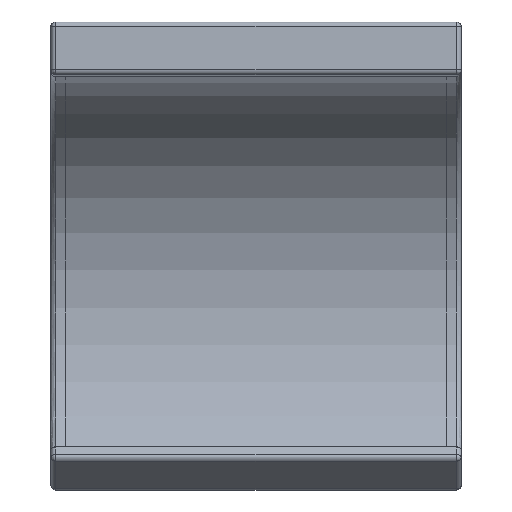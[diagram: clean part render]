
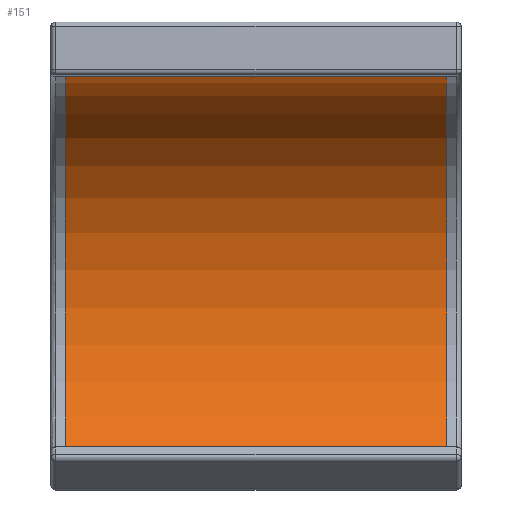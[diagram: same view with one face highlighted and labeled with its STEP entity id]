
A CAD part, top view. The second image highlights one B-rep face of the part: STEP entity #151.
In plain terms, the highlighted cylindrical face has radius 470 mm (diameter 940 mm), a partial arc.
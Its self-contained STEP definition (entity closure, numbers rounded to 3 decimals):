
#151=ADVANCED_FACE('',(#272),#1698,.F.);
#272=FACE_OUTER_BOUND('',#393,.T.);
#393=EDGE_LOOP('',(#766,#767,#768,#769));
#766=ORIENTED_EDGE('',*,*,#1094,.T.);
#767=ORIENTED_EDGE('',*,*,#1095,.T.);
#768=ORIENTED_EDGE('',*,*,#1096,.F.);
#769=ORIENTED_EDGE('',*,*,#1091,.F.);
#1091=EDGE_CURVE('',#1621,#1622,#1476,.T.);
#1094=EDGE_CURVE('',#1621,#1624,#1239,.T.);
#1095=EDGE_CURVE('',#1624,#1625,#1182,.T.);
#1096=EDGE_CURVE('',#1622,#1625,#1240,.T.);
#1182=(
BOUNDED_CURVE()
B_SPLINE_CURVE(1,(#3489,#3490),.UNSPECIFIED.,.F.,.F.)
B_SPLINE_CURVE_WITH_KNOTS((2,2),(0.,790.),.UNSPECIFIED.)
CURVE()
GEOMETRIC_REPRESENTATION_ITEM()
RATIONAL_B_SPLINE_CURVE((1.,1.))
REPRESENTATION_ITEM('')
);
#1239=TRIMMED_CURVE($,#1336,(#3487),(#3488),.T.,.CARTESIAN.);
#1240=TRIMMED_CURVE($,#1337,(#3492),(#3493),.T.,.CARTESIAN.);
#1336=CIRCLE('',#1931,470.);
#1337=CIRCLE('',#1932,470.);
#1476=B_SPLINE_CURVE_WITH_KNOTS('',1,(#3480,#3481),.UNSPECIFIED.,.F.,.F.,
(2,2),(0.,790.),.UNSPECIFIED.);
#1621=VERTEX_POINT('',#3471);
#1622=VERTEX_POINT('',#3472);
#1624=VERTEX_POINT('',#3474);
#1625=VERTEX_POINT('',#3475);
#1698=CYLINDRICAL_SURFACE('',#1926,470.);
#1926=AXIS2_PLACEMENT_3D('',#3465,#2189,$);
#1931=AXIS2_PLACEMENT_3D($,#3486,#2194,#2195);
#1932=AXIS2_PLACEMENT_3D($,#3491,#2196,#2197);
#2189=DIRECTION('',(-1.,0.,0.));
#2194=DIRECTION('',(-1.,0.,0.));
#2195=DIRECTION('',(0.,0.996,-0.095));
#2196=DIRECTION('',(-1.,0.,0.));
#2197=DIRECTION('',(0.,0.996,-0.095));
#3465=CARTESIAN_POINT('',(0.,305.778,745.));
#3471=CARTESIAN_POINT('',(-395.,773.668,700.521));
#3472=CARTESIAN_POINT('',(395.,773.668,700.521));
#3474=CARTESIAN_POINT('',(-395.,6.37,382.708));
#3475=CARTESIAN_POINT('',(395.,6.37,382.708));
#3480=CARTESIAN_POINT('',(-395.,773.668,700.521));
#3481=CARTESIAN_POINT('',(395.,773.668,700.521));
#3486=CARTESIAN_POINT('',(-395.,305.778,745.));
#3487=CARTESIAN_POINT('',(-395.,773.668,700.521));
#3488=CARTESIAN_POINT('',(-395.,6.37,382.708));
#3489=CARTESIAN_POINT('',(-395.,6.37,382.708));
#3490=CARTESIAN_POINT('',(395.,6.37,382.708));
#3491=CARTESIAN_POINT('',(395.,305.778,745.));
#3492=CARTESIAN_POINT('',(395.,773.668,700.521));
#3493=CARTESIAN_POINT('',(395.,6.37,382.708));
